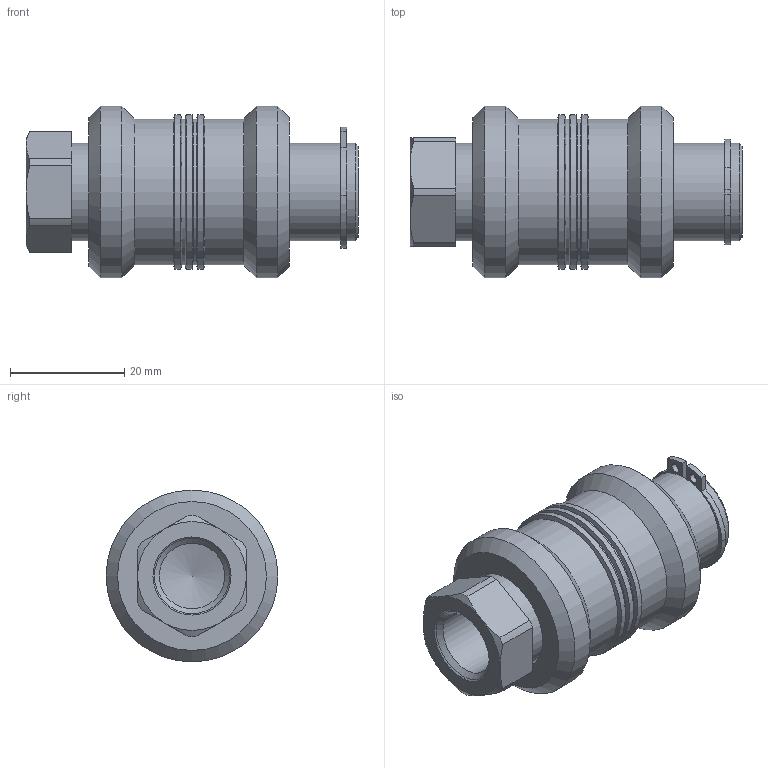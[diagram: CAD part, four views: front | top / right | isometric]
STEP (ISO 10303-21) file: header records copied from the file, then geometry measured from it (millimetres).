
FILE_DESCRIPTION(('Bauteilbeschreibung','HiCAD-Model','HiCAD-STEP-TRANSLATION','Bauteilbeschreibung'),'2;1');
FILE_NAME('B:/ABGLEICH/ZEICHNUNGEN/STEP FÜR INTERNET/STEP/HANDSCHIEBEVENTIL/60603_HANDSCHIEBEVENTIL_1-4.STP','2012-08-07T14:28:01+00:00',('Konstrukteur'),('Konstrukteur Firma GmbH'),' HiCAD neXt 2008, Step 3.1.1401.2J ','HiCAD neXt 2008','confidential');
FILE_SCHEMA(('AUTOMOTIVE_DESIGN { 1 2 10303 214 0 1 1 1 }'));
Length unit declared in the file: millimetre
Products named in the file (7): A0603_HANDSCHIEBEVENTIL_1_4; SCHIEBEH_LSE; SICHERUNGSRING; A0603; A06030; G 1_4; G0104
Assembly tree (6 placements, depth 3):
  A0603_HANDSCHIEBEVENTIL_1_4
    SCHIEBEH_LSE
    SICHERUNGSRING
    A0603
    A06030
      G 1_4
      G0104
Bounding box: 58 x 30 x 30 mm (x, y, z)
Volume: 19891.1 mm3; surface area: 14229.7 mm2
Topology: 5 solids, 5 shells, 85 faces, 195 edges, 123 vertices
Faces by surface type: cylinder 39, cone 23, plane 23
Full cylindrical faces by diameter (mm): 11.445 x4, 13.157 x4, 15 x1, 17 x2, 18 x1, 25.5 x4, 27 x3, 30 x2
Entity records: 3011 total; most frequent: DIRECTION 414, CARTESIAN_POINT 375, ORIENTED_EDGE 286, AXIS2_PLACEMENT_3D 186, COLOUR_RGB 148, PRESENTATION_STYLE_ASSIGNMENT 148, CURVE_STYLE 143, DRAUGHTING_PRE_DEFINED_CURVE_FONT 143
